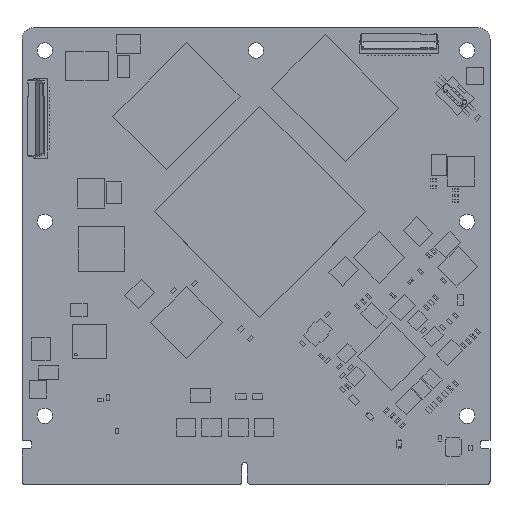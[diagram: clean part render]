
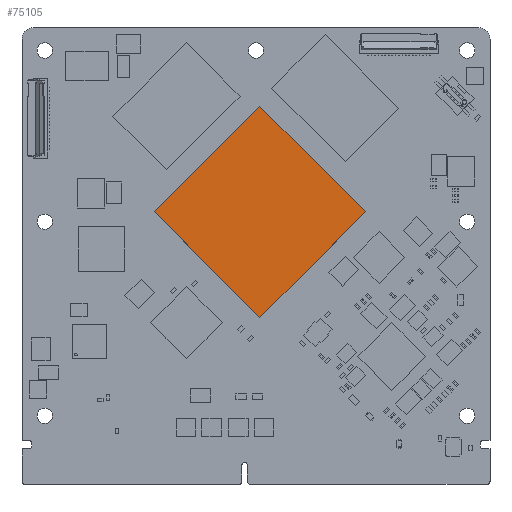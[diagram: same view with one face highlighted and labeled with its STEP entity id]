
A CAD part, top view. The second image highlights one B-rep face of the part: STEP entity #75105.
In plain terms, the highlighted planar face has unit normal (0, 0, 1).
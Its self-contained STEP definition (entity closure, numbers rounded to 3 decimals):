
#2128 = ORIENTED_EDGE ( 'NONE', *, *, #64669, .T. ) ;
#3075 = VERTEX_POINT ( 'NONE', #54789 ) ;
#5053 = ORIENTED_EDGE ( 'NONE', *, *, #60474, .T. ) ;
#6685 = AXIS2_PLACEMENT_3D ( 'NONE', #32832, #60186, #27558 ) ;
#7684 = VECTOR ( 'NONE', #75000, 1000. ) ;
#9350 = EDGE_CURVE ( 'NONE', #71473, #54559, #85566, .T. ) ;
#13890 = CARTESIAN_POINT ( 'NONE',  ( 37.683, 54.204, 3.289 ) ) ;
#16311 = ORIENTED_EDGE ( 'NONE', *, *, #9350, .T. ) ;
#17206 = DIRECTION ( 'NONE',  ( 0.707, -0.707, 0. ) ) ;
#18080 = LINE ( 'NONE', #78474, #22661 ) ;
#20206 = EDGE_LOOP ( 'NONE', ( #5053, #16311, #2128, #74616 ) ) ;
#20583 = CARTESIAN_POINT ( 'NONE',  ( 37.683, 17.255, 3.289 ) ) ;
#22661 = VECTOR ( 'NONE', #17206, 1000. ) ;
#23241 = DIRECTION ( 'NONE',  ( -0.707, -0.707, 0. ) ) ;
#27558 = DIRECTION ( 'NONE',  ( -0.707, 0.707, 0. ) ) ;
#32832 = CARTESIAN_POINT ( 'NONE',  ( 37.683, 35.73, 3.289 ) ) ;
#33123 = CARTESIAN_POINT ( 'NONE',  ( 37.683, 54.204, 3.289 ) ) ;
#37435 = VECTOR ( 'NONE', #23241, 1000. ) ;
#46721 = CARTESIAN_POINT ( 'NONE',  ( 56.157, 35.73, 3.289 ) ) ;
#47368 = PLANE ( 'NONE',  #6685 ) ;
#47416 = VERTEX_POINT ( 'NONE', #13890 ) ;
#47896 = VECTOR ( 'NONE', #53795, 1000. ) ;
#52918 = EDGE_CURVE ( 'NONE', #47416, #3075, #77894, .T. ) ;
#53795 = DIRECTION ( 'NONE',  ( 0.707, 0.707, 0. ) ) ;
#54559 = VERTEX_POINT ( 'NONE', #77806 ) ;
#54789 = CARTESIAN_POINT ( 'NONE',  ( 19.208, 35.73, 3.289 ) ) ;
#58061 = CARTESIAN_POINT ( 'NONE',  ( 19.208, 35.73, 3.289 ) ) ;
#60186 = DIRECTION ( 'NONE',  ( 0., 0., -1. ) ) ;
#60474 = EDGE_CURVE ( 'NONE', #3075, #71473, #18080, .T. ) ;
#61335 = LINE ( 'NONE', #33123, #7684 ) ;
#64669 = EDGE_CURVE ( 'NONE', #54559, #47416, #61335, .T. ) ;
#66351 = FACE_OUTER_BOUND ( 'NONE', #20206, .T. ) ;
#71473 = VERTEX_POINT ( 'NONE', #20583 ) ;
#74616 = ORIENTED_EDGE ( 'NONE', *, *, #52918, .T. ) ;
#75000 = DIRECTION ( 'NONE',  ( -0.707, 0.707, 0. ) ) ;
#75105 = ADVANCED_FACE ( 'NONE', ( #66351 ), #47368, .F. ) ;
#77806 = CARTESIAN_POINT ( 'NONE',  ( 56.157, 35.73, 3.289 ) ) ;
#77894 = LINE ( 'NONE', #58061, #37435 ) ;
#78474 = CARTESIAN_POINT ( 'NONE',  ( 37.683, 17.255, 3.289 ) ) ;
#85566 = LINE ( 'NONE', #46721, #47896 ) ;
